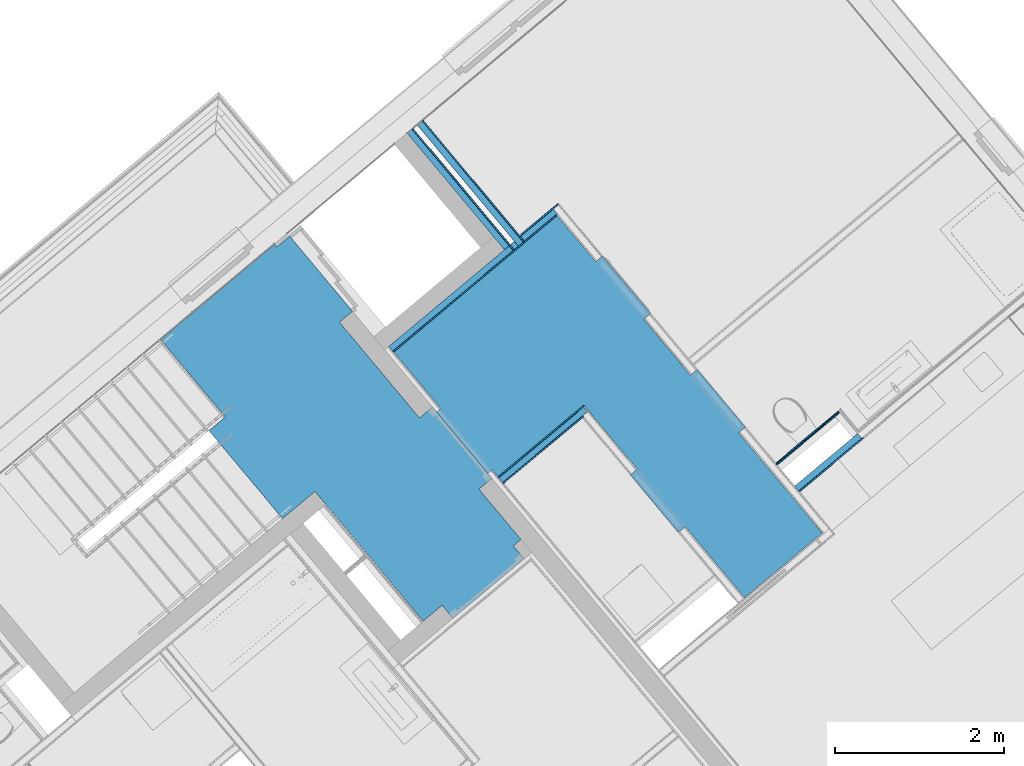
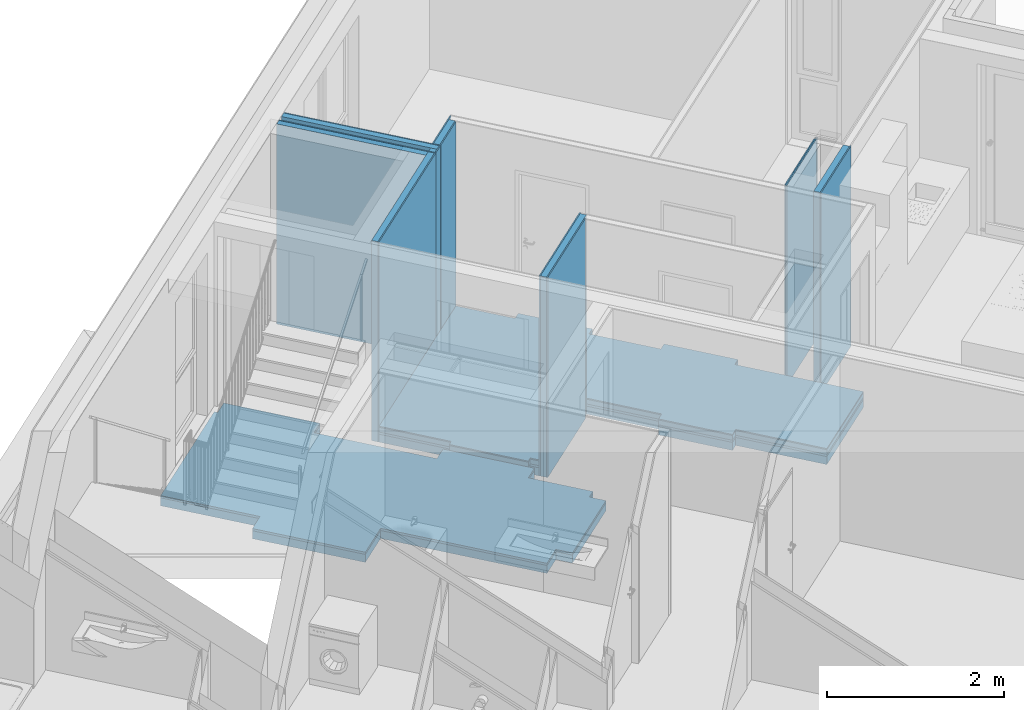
# One storey, part 35 of 53: 24 building element parts, 10 elements without a shape of their own.
"""IFC4 building model written with IfcOpenShell, lengths in metres."""

from ifc_helpers import new_model, entity, si_unit, converted_unit, derived_unit, direction, frame, origin_with_axes, place, context, subcontext, project, spatial, polygons, material, type_object, element, aggregate, save


model = new_model("IFC4")

# Units and contexts
model_context = context("Model", 3, precision=1e-05, world=origin_with_axes(), true_north=direction((0.0, 1.0)))
body_context = subcontext(model_context, "Body", "Model", "MODEL_VIEW")
ifc_project = project(units=[si_unit("LENGTHUNIT", "METRE"), si_unit("AREAUNIT", "SQUARE_METRE"), si_unit("VOLUMEUNIT", "CUBIC_METRE"), converted_unit("PLANEANGLEUNIT", "DEGREE", entity("IfcPlaneAngleMeasure", 0.0174532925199), si_unit("PLANEANGLEUNIT", "RADIAN"), dimensions=[0, 0, 0, 0, 0, 0, 0]), converted_unit("TIMEUNIT", "Year", entity("IfcTimeMeasure", 31556926.0), si_unit("TIMEUNIT", "SECOND"), dimensions=[0, 0, 1, 0, 0, 0, 0]), si_unit("MASSUNIT", "GRAM", prefix="KILO"), si_unit("THERMODYNAMICTEMPERATUREUNIT", "DEGREE_CELSIUS"), si_unit("LUMINOUSINTENSITYUNIT", "LUMEN"), si_unit("ENERGYUNIT", "JOULE", prefix="MEGA"), derived_unit("THERMALCONDUCTANCEUNIT", [(si_unit("POWERUNIT", "WATT"), 1), (si_unit("LENGTHUNIT", "METRE"), -1), (si_unit("THERMODYNAMICTEMPERATUREUNIT", "KELVIN"), -1)]), derived_unit("SPECIFICHEATCAPACITYUNIT", [(si_unit("ENERGYUNIT", "JOULE"), 1), (si_unit("MASSUNIT", "GRAM", prefix="KILO"), -1), (si_unit("THERMODYNAMICTEMPERATUREUNIT", "KELVIN"), -1)]), derived_unit("MASSDENSITYUNIT", [(si_unit("MASSUNIT", "GRAM", prefix="KILO"), 1), (si_unit("VOLUMEUNIT", "CUBIC_METRE"), -1)])], contexts=[model_context])

# Site, building, storey
site_placement = place(None, frame((-0.00153261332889, -0.00661245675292, 0.0), z_axis=(0.0, 0.0, 1.0), x_axis=(1.0, 0.0, 0.0)))
site = spatial("IfcSite", under=ifc_project, at=site_placement, Name="Gelände", CompositionType="ELEMENT")
building_placement = place(site_placement, origin_with_axes())
building = spatial("IfcBuilding", under=site, at=building_placement, Name="Gebäude", CompositionType="ELEMENT")
storey_placement = place(building_placement, frame((0.0, 0.0, 2.74), z_axis=(0.0, 0.0, 1.0), x_axis=(1.0, 0.0, 0.0)))
storey = spatial("IfcBuildingStorey", under=building, at=storey_placement, Name="OG1", CompositionType="ELEMENT", Elevation=2.74)

# Wall, building element parts
wall_type_1 = type_object("IfcWallType", Name="IW LB 01 Leichtbautrennwand einfach 10,5 cm 105", PredefinedType="NOTDEFINED")
wall_1_placement = place(storey_placement, frame((3.02017821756, 25.9291230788, 0.0), z_axis=(0.0, 0.0, 1.0), x_axis=(0.767365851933, 0.641209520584, 0.0)))
wall_1 = element("IfcWall", 1, at=wall_1_placement, inside=storey, type_object=wall_type_1, Name="Wand-012", PredefinedType="NOTDEFINED")
ifc_material_1 = material(Name="Gipskarton")
building_element_part_1_placement = place(wall_1_placement, origin_with_axes())
building_element_part_1 = element("IfcBuildingElementPart", 2, at=building_element_part_1_placement, material=ifc_material_1, Name="Gipskarton", PredefinedType="NOTDEFINED", context=body_context, shape_type="Tessellation", body=[
    polygons([(0.673687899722, 0.0, 2.76), (0.0900000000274, 0.0, 2.76), (0.0900000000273, -0.015, 2.76), (0.673687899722, -0.015, 2.76), (0.673687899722, 0.0, 0.0), (0.0900000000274, 0.0, 0.0), (0.0900000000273, -0.015, 0.0), (0.673687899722, -0.015, 0.0)], [[[1, 2, 3, 4]], [[5, 6, 2, 1]], [[3, 2, 6, 7]], [[4, 3, 7, 8]], [[4, 8, 5, 1]], [[8, 7, 6, 5]]], closed=True),
])
ifc_material_2 = material(Name="Mineralwolle weich")
building_element_part_2_placement = place(wall_1_placement, origin_with_axes())
building_element_part_2 = element("IfcBuildingElementPart", 3, at=building_element_part_2_placement, material=ifc_material_2, Name="Mineralwolle weich", PredefinedType="NOTDEFINED", context=body_context, shape_type="Tessellation", body=[
    polygons([(0.598687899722, -0.015, 2.76), (0.0900000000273, -0.015, 2.76), (0.090000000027, -0.09, 2.76), (0.598687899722, -0.09, 2.76), (0.598687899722, -0.015, 0.0), (0.0900000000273, -0.015, 0.0), (0.090000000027, -0.09, 0.0), (0.598687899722, -0.09, 0.0)], [[[1, 2, 3, 4]], [[5, 6, 2, 1]], [[3, 2, 6, 7]], [[4, 3, 7, 8]], [[4, 8, 5, 1]], [[8, 7, 6, 5]]], closed=True),
])
building_element_part_3_placement = place(wall_1_placement, origin_with_axes())
building_element_part_3 = element("IfcBuildingElementPart", 4, at=building_element_part_3_placement, material=ifc_material_1, Name="Gipskarton", PredefinedType="NOTDEFINED", context=body_context, shape_type="Tessellation", body=[
    polygons([(0.583687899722, -0.09, 2.76), (0.090000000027, -0.09, 2.76), (0.0900000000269, -0.105, 2.76), (0.583687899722, -0.105, 2.76), (0.583687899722, -0.09, 0.0), (0.090000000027, -0.09, 0.0), (0.0900000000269, -0.105, 0.0), (0.583687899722, -0.105, 0.0)], [[[1, 2, 3, 4]], [[5, 6, 2, 1]], [[3, 2, 6, 7]], [[4, 3, 7, 8]], [[4, 8, 5, 1]], [[8, 7, 6, 5]]], closed=True),
])
aggregate(wall_1, [building_element_part_1, building_element_part_2, building_element_part_3])

wall_2_placement = place(storey_placement, frame((2.84969161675, 23.0041117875, 0.0), z_axis=(0.0, 0.0, 1.0), x_axis=(0.767365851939, 0.641209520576, 0.0)))
wall_2 = element("IfcWall", 5, at=wall_2_placement, inside=storey, type_object=wall_type_1, Name="Wand-012", PredefinedType="NOTDEFINED")
building_element_part_4_placement = place(wall_2_placement, origin_with_axes())
building_element_part_4 = element("IfcBuildingElementPart", 6, at=building_element_part_4_placement, material=ifc_material_1, Name="Gipskarton", PredefinedType="NOTDEFINED", context=body_context, shape_type="Tessellation", body=[
    polygons([(0.0650498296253, 0.105, 2.76), (0.0650427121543, 0.09, 2.76), (1.3909877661, 0.09, 2.76), (1.3909877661, 0.105, 2.76), (0.0650427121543, 0.09, 0.0), (0.0650498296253, 0.105, 0.0), (1.3909877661, 0.09, 0.0), (1.3909877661, 0.105, 0.0)], [[[1, 2, 3, 4]], [[5, 2, 1, 6]], [[2, 5, 7, 3]], [[4, 3, 7, 8]], [[6, 1, 4, 8]], [[5, 6, 8, 7]]], closed=True),
])
building_element_part_5_placement = place(wall_2_placement, origin_with_axes())
building_element_part_5 = element("IfcBuildingElementPart", 7, at=building_element_part_5_placement, material=ifc_material_2, Name="Mineralwolle weich", PredefinedType="NOTDEFINED", context=body_context, shape_type="Tessellation", body=[
    polygons([(0.0650427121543, 0.09, 2.76), (0.0650071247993, 0.015, 2.76), (1.3759877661, 0.015, 2.76), (1.3759877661, 0.09, 2.76), (0.0650071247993, 0.015, 0.0), (0.0650427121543, 0.09, 0.0), (1.3759877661, 0.015, 0.0), (1.3759877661, 0.09, 0.0)], [[[1, 2, 3, 4]], [[5, 2, 1, 6]], [[2, 5, 7, 3]], [[4, 3, 7, 8]], [[6, 1, 4, 8]], [[5, 6, 8, 7]]], closed=True),
])
building_element_part_6_placement = place(wall_2_placement, origin_with_axes())
building_element_part_6 = element("IfcBuildingElementPart", 8, at=building_element_part_6_placement, material=ifc_material_1, Name="Gipskarton", PredefinedType="NOTDEFINED", context=body_context, shape_type="Tessellation", body=[
    polygons([(0.0650071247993, 0.015, 2.76), (0.0650000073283, 0.0, 2.76), (1.3009877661, 0.0, 2.76), (1.3009877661, 0.015, 2.76), (0.0650000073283, 0.0, 0.0), (0.0650071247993, 0.015, 0.0), (1.3009877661, 0.0, 0.0), (1.3009877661, 0.015, 0.0)], [[[1, 2, 3, 4]], [[5, 2, 1, 6]], [[2, 5, 7, 3]], [[4, 3, 7, 8]], [[6, 1, 4, 8]], [[5, 6, 8, 7]]], closed=True),
])
aggregate(wall_2, [building_element_part_4, building_element_part_5, building_element_part_6])

wall_type_2 = type_object("IfcWallType", Name="LB 9,0 cm einfache Vorsatzschale  90", PredefinedType="NOTDEFINED")
wall_3_placement = place(storey_placement, frame((2.91105147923, 25.8183705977, 0.0), z_axis=(0.0, 0.0, 1.0), x_axis=(-0.641215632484, 0.767360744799, 0.0)))
wall_3 = element("IfcWall", 9, at=wall_3_placement, inside=storey, type_object=wall_type_2, Name="Wand-006", PredefinedType="NOTDEFINED")
building_element_part_7_placement = place(wall_3_placement, origin_with_axes())
building_element_part_7 = element("IfcBuildingElementPart", 10, at=building_element_part_7_placement, material=ifc_material_2, Name="Mineralwolle weich", PredefinedType="NOTDEFINED", context=body_context, shape_type="Tessellation", body=[
    polygons([(1.79614424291, 0.0, 2.76), (0.0, 0.0, 2.76), (6.98080551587e-07, -0.075, 2.76), (1.79614364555, -0.075, 2.76), (1.79614424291, 0.0, 0.0), (0.0, 0.0, 0.0), (6.98080551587e-07, -0.075, 0.0), (1.79614364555, -0.075, 0.0)], [[[1, 2, 3, 4]], [[5, 6, 2, 1]], [[3, 2, 6, 7]], [[4, 3, 7, 8]], [[4, 8, 5, 1]], [[8, 7, 6, 5]]], closed=True),
])
building_element_part_8_placement = place(wall_3_placement, origin_with_axes())
building_element_part_8 = element("IfcBuildingElementPart", 11, at=building_element_part_8_placement, material=ifc_material_1, Name="Gipskarton", PredefinedType="NOTDEFINED", context=body_context, shape_type="Tessellation", body=[
    polygons([(1.79614364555, -0.075, 2.76), (-0.0749993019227, -0.075, 2.76), (-0.0749991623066, -0.09, 2.76), (1.79614352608, -0.09, 2.76), (1.79614364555, -0.075, 0.0), (-0.0749993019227, -0.075, 0.0), (-0.0749991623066, -0.09, 0.0), (1.79614352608, -0.09, 0.0)], [[[1, 2, 3, 4]], [[5, 6, 2, 1]], [[3, 2, 6, 7]], [[4, 3, 7, 8]], [[4, 8, 5, 1]], [[8, 7, 6, 5]]], closed=True),
])
aggregate(wall_3, [building_element_part_7, building_element_part_8])

wall_4_placement = place(storey_placement, frame((1.49097783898, 24.6317179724, 0.0), z_axis=(0.0, 0.0, 1.0), x_axis=(0.767354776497, 0.641222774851, 0.0)))
wall_4 = element("IfcWall", 12, at=wall_4_placement, inside=storey, type_object=wall_type_2, Name="Wand-006", PredefinedType="NOTDEFINED")
building_element_part_9_placement = place(wall_4_placement, origin_with_axes())
building_element_part_9 = element("IfcBuildingElementPart", 13, at=building_element_part_9_placement, material=ifc_material_2, Name="Mineralwolle weich", PredefinedType="NOTDEFINED", context=body_context, shape_type="Tessellation", body=[
    polygons([(1.92560898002, 0.0, 2.76), (0.0650000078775, 0.0, 2.76), (0.0649631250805, -0.075, 2.76), (1.92560828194, -0.075, 2.76), (1.92560898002, 0.0, 0.0), (0.0650000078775, 0.0, 0.0), (0.0649631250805, -0.075, 0.0), (1.92560828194, -0.075, 0.0)], [[[1, 2, 3, 4]], [[5, 6, 2, 1]], [[6, 7, 3, 2]], [[4, 3, 7, 8]], [[5, 1, 4, 8]], [[8, 7, 6, 5]]], closed=True),
])
building_element_part_10_placement = place(wall_4_placement, origin_with_axes())
building_element_part_10 = element("IfcBuildingElementPart", 14, at=building_element_part_10_placement, material=ifc_material_1, Name="Gipskarton", PredefinedType="NOTDEFINED", context=body_context, shape_type="Tessellation", body=[
    polygons([(0.0649631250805, -0.075, 2.76), (0.0649557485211, -0.09, 2.76), (1.94060814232, -0.09, 2.76), (1.94060828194, -0.075, 2.76), (0.0649557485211, -0.09, 0.0), (0.0649631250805, -0.075, 0.0), (1.94060814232, -0.09, 0.0), (1.94060828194, -0.075, 0.0)], [[[1, 2, 3, 4]], [[5, 2, 1, 6]], [[2, 5, 7, 3]], [[4, 3, 7, 8]], [[6, 1, 4, 8]], [[5, 6, 8, 7]]], closed=True),
])
aggregate(wall_4, [building_element_part_9, building_element_part_10])

wall_5_placement = place(storey_placement, frame((2.98011276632, 25.8760801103, 0.0), z_axis=(0.0, 0.0, 1.0), x_axis=(0.767354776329, 0.641222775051, 0.0)))
wall_5 = element("IfcWall", 15, at=wall_5_placement, inside=storey, type_object=wall_type_2, Name="Wand-006", PredefinedType="NOTDEFINED")
building_element_part_11_placement = place(wall_5_placement, origin_with_axes())
building_element_part_11 = element("IfcBuildingElementPart", 16, at=building_element_part_11_placement, material=ifc_material_2, Name="Mineralwolle weich", PredefinedType="NOTDEFINED", context=body_context, shape_type="Tessellation", body=[
    polygons([(0.0647565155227, 0.0, 2.76), (0.0, 0.0, 2.76), (0.0, -0.075, 2.76), (0.0647552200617, -0.075, 2.76), (0.0647565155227, 0.0, 0.0), (0.0, 0.0, 0.0), (0.0, -0.075, 0.0), (0.0647552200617, -0.075, 0.0)], [[[1, 2, 3, 4]], [[5, 6, 2, 1]], [[3, 2, 6, 7]], [[4, 3, 7, 8]], [[4, 8, 5, 1]], [[8, 7, 6, 5]]], closed=True),
])
building_element_part_12_placement = place(wall_5_placement, origin_with_axes())
building_element_part_12 = element("IfcBuildingElementPart", 17, at=building_element_part_12_placement, material=ifc_material_1, Name="Gipskarton", PredefinedType="NOTDEFINED", context=body_context, shape_type="Tessellation", body=[
    polygons([(0.139755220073, -0.075, 2.76), (0.0, -0.075, 2.76), (0.0, -0.09, 2.76), (0.139754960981, -0.09, 2.76), (0.139755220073, -0.075, 0.0), (0.0, -0.075, 0.0), (0.0, -0.09, 0.0), (0.139754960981, -0.09, 0.0)], [[[1, 2, 3, 4]], [[5, 6, 2, 1]], [[3, 2, 6, 7]], [[4, 3, 7, 8]], [[4, 8, 5, 1]], [[8, 7, 6, 5]]], closed=True),
])
aggregate(wall_5, [building_element_part_11, building_element_part_12])

wall_6_placement = place(storey_placement, frame((3.08751284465, 25.8485405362, 0.0), z_axis=(0.0, 0.0, 1.0), x_axis=(-0.64120952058, 0.767365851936, 0.0)))
wall_6 = element("IfcWall", 18, at=wall_6_placement, inside=storey, type_object=wall_type_2, Name="Wand-006", PredefinedType="NOTDEFINED")
building_element_part_13_placement = place(wall_6_placement, origin_with_axes())
building_element_part_13 = element("IfcBuildingElementPart", 19, at=building_element_part_13_placement, material=ifc_material_2, Name="Mineralwolle weich", PredefinedType="NOTDEFINED", context=body_context, shape_type="Tessellation", body=[
    polygons([(1.8861415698, -0.075, 2.76), (1.8861415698, 0.0, 2.76), (0.0149999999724, 0.0, 2.76), (0.0150012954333, -0.075, 2.76), (1.8861415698, -0.075, 0.0), (1.8861415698, 0.0, 0.0), (0.0149999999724, 0.0, 0.0), (0.0150012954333, -0.075, 0.0)], [[[1, 2, 3, 4]], [[2, 1, 5, 6]], [[2, 6, 7, 3]], [[8, 4, 3, 7]], [[5, 1, 4, 8]], [[6, 5, 8, 7]]], closed=True),
])
building_element_part_14_placement = place(wall_6_placement, origin_with_axes())
building_element_part_14 = element("IfcBuildingElementPart", 20, at=building_element_part_14_placement, material=ifc_material_1, Name="Gipskarton", PredefinedType="NOTDEFINED", context=body_context, shape_type="Tessellation", body=[
    polygons([(1.8861415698, -0.075, 2.76), (0.0, -0.075, 2.76), (0.0, -0.09, 2.76), (1.8861415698, -0.09, 2.76), (1.8861415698, -0.075, 0.0), (0.0, -0.075, 0.0), (0.0, -0.09, 0.0), (1.8861415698, -0.09, 0.0)], [[[1, 2, 3, 4]], [[5, 6, 2, 1]], [[3, 2, 6, 7]], [[4, 3, 7, 8]], [[4, 8, 5, 1]], [[8, 7, 6, 5]]], closed=True),
])
aggregate(wall_6, [building_element_part_13, building_element_part_14])

wall_7_placement = place(storey_placement, frame((6.35108165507, 23.0169179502, 0.0), z_axis=(0.0, 0.0, 1.0), x_axis=(0.767365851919, 0.641209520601, 0.0)))
wall_7 = element("IfcWall", 21, at=wall_7_placement, inside=storey, type_object=wall_type_2, Name="Wand-006", PredefinedType="NOTDEFINED")
building_element_part_15_placement = place(wall_7_placement, origin_with_axes())
building_element_part_15 = element("IfcBuildingElementPart", 22, at=building_element_part_15_placement, material=ifc_material_2, Name="Mineralwolle weich", PredefinedType="NOTDEFINED", context=body_context, shape_type="Tessellation", body=[
    polygons([(0.971380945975, 0.0, 2.76), (0.0, 0.0, 2.76), (0.0, -0.075, 2.76), (0.971201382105, -0.075, 2.76), (0.971380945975, 0.0, 0.0), (0.0, 0.0, 0.0), (0.0, -0.075, 0.0), (0.971201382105, -0.075, 0.0)], [[[1, 2, 3, 4]], [[5, 6, 2, 1]], [[3, 2, 6, 7]], [[4, 3, 7, 8]], [[4, 8, 5, 1]], [[8, 7, 6, 5]]], closed=True),
])
building_element_part_16_placement = place(wall_7_placement, origin_with_axes())
building_element_part_16 = element("IfcBuildingElementPart", 23, at=building_element_part_16_placement, material=ifc_material_1, Name="Gipskarton", PredefinedType="NOTDEFINED", context=body_context, shape_type="Tessellation", body=[
    polygons([(0.986201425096, -0.075, 2.76), (0.0, -0.075, 2.76), (0.0, -0.09, 2.76), (0.986165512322, -0.09, 2.76), (0.986201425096, -0.075, 0.0), (0.0, -0.075, 0.0), (0.0, -0.09, 0.0), (0.986165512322, -0.09, 0.0)], [[[1, 2, 3, 4]], [[5, 6, 2, 1]], [[3, 2, 6, 7]], [[4, 3, 7, 8]], [[4, 8, 5, 1]], [[8, 7, 6, 5]]], closed=True),
])
aggregate(wall_7, [building_element_part_15, building_element_part_16])

wall_type_3 = type_object("IfcWallType", Name="LB 10,5 cm doppelte Vorsatzschale Bad 105", PredefinedType="NOTDEFINED")
wall_8_placement = place(storey_placement, frame((6.19191495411, 23.207400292, 0.0), z_axis=(0.0, 0.0, 1.0), x_axis=(0.767365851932, 0.641209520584, 0.0)))
wall_8 = element("IfcWall", 24, at=wall_8_placement, inside=storey, type_object=wall_type_3, Name="Wand-004", PredefinedType="NOTDEFINED")
building_element_part_17_placement = place(wall_8_placement, origin_with_axes())
building_element_part_17 = element("IfcBuildingElementPart", 25, at=building_element_part_17_placement, material=ifc_material_1, Name="Gipskarton", PredefinedType="NOTDEFINED", context=body_context, shape_type="Tessellation", body=[
    polygons([(1.00222642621, 0.10487431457, 0.0), (1.00222642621, 0.09, 0.0), (1.00219081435, 0.09, 0.0), (1.00222642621, 0.10487431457, 2.76), (1.00222642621, 0.09, 2.76), (1.00219081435, 0.09, 2.76)], [[[1, 2, 3]], [[4, 5, 2, 1]], [[2, 5, 6, 3]], [[1, 3, 6, 4]], [[5, 4, 6]]], closed=True),
    polygons([(0.972190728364, 0.09, 0.0), (0.0, 0.09, 0.0), (0.0, 0.105, 0.0), (0.972226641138, 0.105, 0.0), (0.972190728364, 0.09, 2.76), (0.0, 0.09, 2.76), (0.0, 0.105, 2.76), (0.972226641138, 0.105, 2.76)], [[[1, 2, 3, 4]], [[5, 6, 2, 1]], [[3, 2, 6, 7]], [[4, 3, 7, 8]], [[4, 8, 5, 1]], [[8, 7, 6, 5]]], closed=True),
])
building_element_part_18_placement = place(wall_8_placement, origin_with_axes())
building_element_part_18 = element("IfcBuildingElementPart", 26, at=building_element_part_18_placement, material=ifc_material_1, Name="Gipskarton", PredefinedType="NOTDEFINED", context=body_context, shape_type="Tessellation", body=[
    polygons([(1.00222642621, 0.09, 0.0), (1.00222642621, 0.075, 0.0), (1.00215490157, 0.075, 0.0), (1.00219081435, 0.09, 0.0), (1.00222642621, 0.09, 2.76), (1.00222642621, 0.075, 2.76), (1.00215490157, 0.075, 2.76), (1.00219081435, 0.09, 2.76)], [[[1, 2, 3, 4]], [[1, 5, 6, 2]], [[2, 6, 7, 3]], [[4, 3, 7, 8]], [[5, 1, 4, 8]], [[6, 5, 8, 7]]], closed=True),
    polygons([(0.97215481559, 0.075, 0.0), (0.0, 0.075, 0.0), (0.0, 0.09, 0.0), (0.972190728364, 0.09, 0.0), (0.97215481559, 0.075, 2.76), (0.0, 0.075, 2.76), (0.0, 0.09, 2.76), (0.972190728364, 0.09, 2.76)], [[[1, 2, 3, 4]], [[5, 6, 2, 1]], [[3, 2, 6, 7]], [[4, 3, 7, 8]], [[4, 8, 5, 1]], [[8, 7, 6, 5]]], closed=True),
])
aggregate(wall_8, [building_element_part_17, building_element_part_18])

# Covering, building element parts
covering_type = type_object("IfcCoveringType", Name="DE 01 Decke Wohnung/Wohnung Fließen 220", PredefinedType="NOTDEFINED")
covering_1_placement = place(storey_placement, frame((3.53540854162, 26.2228144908, 0.22), z_axis=(0.0, 0.0, 1.0), x_axis=(1.0, 0.0, 0.0)))
covering_1 = element("IfcCovering", 27, at=covering_1_placement, inside=storey, type_object=covering_type, Name="Decke-001", PredefinedType="NOTDEFINED")
ifc_material_3 = material(Name="Fliesen")
building_element_part_19_placement = place(covering_1_placement, origin_with_axes())
building_element_part_19 = element("IfcBuildingElementPart", 28, at=building_element_part_19_placement, material=ifc_material_3, Name="Fliesen", PredefinedType="NOTDEFINED", context=body_context, shape_type="Tessellation", body=[
    polygons([(0.0, 0.0, -0.015), (-1.93687654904, -1.61850734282, -0.015), (-1.93687654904, -1.61850734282, 0.0), (0.0, 0.0, 0.0), (0.456545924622, -0.546370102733, -0.015), (0.53711933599, -0.479043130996, -0.015), (1.10779579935, -1.16199873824, -0.015), (1.02722238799, -1.22932570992, -0.015), (1.58063062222, -1.89161567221, -0.015), (1.66120403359, -1.8242886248, -0.015), (2.23188049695, -2.50724423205, -0.015), (2.15130708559, -2.57457127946, -0.015), (3.1432594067, -3.76168765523, -0.015), (2.22264850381, -4.52996639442, -0.015), (1.5196247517, -3.68862254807, -0.015), (1.43905209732, -3.75594898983, -0.015), (0.86837563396, -3.07299338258, -0.015), (0.948949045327, -3.00566633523, -0.015), (0.314352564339, -2.24621466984, -0.015), (-0.703126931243, -3.09641874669, -0.015), (-0.771194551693, -3.01488031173, -0.015), (-0.821093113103, -3.05653529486, -0.015), (-1.4298961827, -2.32724879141, -0.015), (-1.37999762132, -2.28559380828, -0.015), (-1.37999762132, -2.28559380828, 0.0), (0.456545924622, -0.546370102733, 0.0), (-1.4298961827, -2.32724879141, 0.0), (-0.821093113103, -3.05653529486, 0.0), (-0.771194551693, -3.01488031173, 0.0), (-0.703126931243, -3.09641874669, 0.0), (0.314352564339, -2.24621466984, 0.0), (0.948949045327, -3.00566633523, 0.0), (0.86837563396, -3.07299338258, 0.0), (1.43905209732, -3.75594898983, 0.0), (1.5196247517, -3.68862254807, 0.0), (2.22264850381, -4.52996639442, 0.0), (3.1432594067, -3.76168765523, 0.0), (2.15130708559, -2.57457127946, 0.0), (2.23188049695, -2.50724423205, 0.0), (1.66120403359, -1.8242886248, 0.0), (1.58063062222, -1.89161567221, 0.0), (1.02722238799, -1.22932570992, 0.0), (1.10779579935, -1.16199873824, 0.0), (0.53711933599, -0.479043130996, 0.0)], [[[1, 2, 3, 4]], [[2, 1, 5, 6, 7, 8, 9, 10, 11, 12, 13, 14, 15, 16, 17, 18, 19, 20, 21, 22, 23, 24]], [[2, 24, 25, 3]], [[26, 4, 3, 25, 27, 28, 29, 30, 31, 32, 33, 34, 35, 36, 37, 38, 39, 40, 41, 42, 43, 44]], [[5, 1, 4, 26]], [[6, 5, 26, 44]], [[7, 6, 44, 43]], [[8, 7, 43, 42]], [[9, 8, 42, 41]], [[10, 9, 41, 40]], [[11, 10, 40, 39]], [[12, 11, 39, 38]], [[13, 12, 38, 37]], [[14, 13, 37, 36]], [[15, 14, 36, 35]], [[16, 15, 35, 34]], [[17, 16, 34, 33]], [[18, 17, 33, 32]], [[19, 18, 32, 31]], [[20, 19, 31, 30]], [[21, 20, 30, 29]], [[22, 21, 29, 28]], [[23, 22, 28, 27]], [[24, 23, 27, 25]]], closed=True),
])
ifc_material_4 = material(Name="Estrich")
building_element_part_20_placement = place(covering_1_placement, origin_with_axes())
building_element_part_20 = element("IfcBuildingElementPart", 29, at=building_element_part_20_placement, material=ifc_material_4, Name="Estrich", PredefinedType="NOTDEFINED", context=body_context, shape_type="Tessellation", body=[
    polygons([(0.0, 0.0, -0.08), (-1.93687654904, -1.61850734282, -0.08), (-1.93687654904, -1.61850734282, -0.015), (0.0, 0.0, -0.015), (0.456545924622, -0.546370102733, -0.08), (0.53711933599, -0.479043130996, -0.08), (1.10779579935, -1.16199873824, -0.08), (1.02722238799, -1.22932570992, -0.08), (1.58063062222, -1.89161567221, -0.08), (1.66120403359, -1.8242886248, -0.08), (2.23188049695, -2.50724423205, -0.08), (2.15130708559, -2.57457127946, -0.08), (3.1432594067, -3.76168765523, -0.08), (2.22264850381, -4.52996639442, -0.08), (1.5196247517, -3.68862254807, -0.08), (1.43905209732, -3.75594898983, -0.08), (0.86837563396, -3.07299338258, -0.08), (0.948949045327, -3.00566633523, -0.08), (0.314352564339, -2.24621466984, -0.08), (-0.703126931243, -3.09641874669, -0.08), (-0.771194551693, -3.01488031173, -0.08), (-0.821093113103, -3.05653529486, -0.08), (-1.4298961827, -2.32724879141, -0.08), (-1.37999762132, -2.28559380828, -0.08), (-1.37999762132, -2.28559380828, -0.015), (0.456545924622, -0.546370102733, -0.015), (-1.4298961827, -2.32724879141, -0.015), (-0.821093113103, -3.05653529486, -0.015), (-0.771194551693, -3.01488031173, -0.015), (-0.703126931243, -3.09641874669, -0.015), (0.314352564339, -2.24621466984, -0.015), (0.948949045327, -3.00566633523, -0.015), (0.86837563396, -3.07299338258, -0.015), (1.43905209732, -3.75594898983, -0.015), (1.5196247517, -3.68862254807, -0.015), (2.22264850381, -4.52996639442, -0.015), (3.1432594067, -3.76168765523, -0.015), (2.15130708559, -2.57457127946, -0.015), (2.23188049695, -2.50724423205, -0.015), (1.66120403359, -1.8242886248, -0.015), (1.58063062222, -1.89161567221, -0.015), (1.02722238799, -1.22932570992, -0.015), (1.10779579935, -1.16199873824, -0.015), (0.53711933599, -0.479043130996, -0.015)], [[[1, 2, 3, 4]], [[2, 1, 5, 6, 7, 8, 9, 10, 11, 12, 13, 14, 15, 16, 17, 18, 19, 20, 21, 22, 23, 24]], [[2, 24, 25, 3]], [[26, 4, 3, 25, 27, 28, 29, 30, 31, 32, 33, 34, 35, 36, 37, 38, 39, 40, 41, 42, 43, 44]], [[5, 1, 4, 26]], [[6, 5, 26, 44]], [[7, 6, 44, 43]], [[8, 7, 43, 42]], [[9, 8, 42, 41]], [[10, 9, 41, 40]], [[11, 10, 40, 39]], [[12, 11, 39, 38]], [[13, 12, 38, 37]], [[14, 13, 37, 36]], [[15, 14, 36, 35]], [[16, 15, 35, 34]], [[17, 16, 34, 33]], [[18, 17, 33, 32]], [[19, 18, 32, 31]], [[20, 19, 31, 30]], [[21, 20, 30, 29]], [[22, 21, 29, 28]], [[23, 22, 28, 27]], [[24, 23, 27, 25]]], closed=True),
])
ifc_material_5 = material(Name="Trittschalldämmung")
building_element_part_21_placement = place(covering_1_placement, origin_with_axes())
building_element_part_21 = element("IfcBuildingElementPart", 30, at=building_element_part_21_placement, material=ifc_material_5, Name="Trittschalldämmung", PredefinedType="NOTDEFINED", context=body_context, shape_type="Tessellation", body=[
    polygons([(0.0, 0.0, -0.11), (-1.93687654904, -1.61850734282, -0.11), (-1.93687654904, -1.61850734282, -0.08), (0.0, 0.0, -0.08), (0.456545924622, -0.546370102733, -0.11), (0.53711933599, -0.479043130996, -0.11), (1.10779579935, -1.16199873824, -0.11), (1.02722238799, -1.22932570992, -0.11), (1.58063062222, -1.89161567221, -0.11), (1.66120403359, -1.8242886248, -0.11), (2.23188049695, -2.50724423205, -0.11), (2.15130708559, -2.57457127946, -0.11), (3.1432594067, -3.76168765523, -0.11), (2.22264850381, -4.52996639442, -0.11), (1.5196247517, -3.68862254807, -0.11), (1.43905209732, -3.75594898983, -0.11), (0.86837563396, -3.07299338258, -0.11), (0.948949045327, -3.00566633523, -0.11), (0.314352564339, -2.24621466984, -0.11), (-0.703126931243, -3.09641874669, -0.11), (-0.771194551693, -3.01488031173, -0.11), (-0.821093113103, -3.05653529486, -0.11), (-1.4298961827, -2.32724879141, -0.11), (-1.37999762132, -2.28559380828, -0.11), (-1.37999762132, -2.28559380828, -0.08), (0.456545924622, -0.546370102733, -0.08), (-1.4298961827, -2.32724879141, -0.08), (-0.821093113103, -3.05653529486, -0.08), (-0.771194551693, -3.01488031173, -0.08), (-0.703126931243, -3.09641874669, -0.08), (0.314352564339, -2.24621466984, -0.08), (0.948949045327, -3.00566633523, -0.08), (0.86837563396, -3.07299338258, -0.08), (1.43905209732, -3.75594898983, -0.08), (1.5196247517, -3.68862254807, -0.08), (2.22264850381, -4.52996639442, -0.08), (3.1432594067, -3.76168765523, -0.08), (2.15130708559, -2.57457127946, -0.08), (2.23188049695, -2.50724423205, -0.08), (1.66120403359, -1.8242886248, -0.08), (1.58063062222, -1.89161567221, -0.08), (1.02722238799, -1.22932570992, -0.08), (1.10779579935, -1.16199873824, -0.08), (0.53711933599, -0.479043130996, -0.08)], [[[1, 2, 3, 4]], [[2, 1, 5, 6, 7, 8, 9, 10, 11, 12, 13, 14, 15, 16, 17, 18, 19, 20, 21, 22, 23, 24]], [[2, 24, 25, 3]], [[26, 4, 3, 25, 27, 28, 29, 30, 31, 32, 33, 34, 35, 36, 37, 38, 39, 40, 41, 42, 43, 44]], [[5, 1, 4, 26]], [[6, 5, 26, 44]], [[7, 6, 44, 43]], [[8, 7, 43, 42]], [[9, 8, 42, 41]], [[10, 9, 41, 40]], [[11, 10, 40, 39]], [[12, 11, 39, 38]], [[13, 12, 38, 37]], [[14, 13, 37, 36]], [[15, 14, 36, 35]], [[16, 15, 35, 34]], [[17, 16, 34, 33]], [[18, 17, 33, 32]], [[19, 18, 32, 31]], [[20, 19, 31, 30]], [[21, 20, 30, 29]], [[22, 21, 29, 28]], [[23, 22, 28, 27]], [[24, 23, 27, 25]]], closed=True),
])
ifc_material_6 = material(Name="Schüttung")
building_element_part_22_placement = place(covering_1_placement, origin_with_axes())
building_element_part_22 = element("IfcBuildingElementPart", 31, at=building_element_part_22_placement, material=ifc_material_6, Name="Schüttung", PredefinedType="NOTDEFINED", context=body_context, shape_type="Tessellation", body=[
    polygons([(0.0, 0.0, -0.11), (0.0, 0.0, -0.22), (-1.93687654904, -1.61850734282, -0.22), (-1.93687654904, -1.61850734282, -0.11), (0.456545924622, -0.546370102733, -0.11), (0.456545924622, -0.546370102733, -0.22), (0.53711933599, -0.479043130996, -0.22), (1.10779579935, -1.16199873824, -0.22), (1.02722238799, -1.22932570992, -0.22), (1.58063062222, -1.89161567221, -0.22), (1.66120403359, -1.8242886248, -0.22), (2.23188049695, -2.50724423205, -0.22), (2.15130708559, -2.57457127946, -0.22), (3.1432594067, -3.76168765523, -0.22), (2.22264850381, -4.52996639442, -0.22), (1.5196247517, -3.68862254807, -0.22), (1.43905209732, -3.75594898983, -0.22), (0.86837563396, -3.07299338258, -0.22), (0.948949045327, -3.00566633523, -0.22), (0.314352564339, -2.24621466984, -0.22), (-0.703126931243, -3.09641874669, -0.22), (-0.771194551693, -3.01488031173, -0.22), (-0.821093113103, -3.05653529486, -0.22), (-1.4298961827, -2.32724879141, -0.22), (-1.37999762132, -2.28559380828, -0.22), (-1.37999762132, -2.28559380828, -0.11), (-1.4298961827, -2.32724879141, -0.11), (-0.821093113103, -3.05653529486, -0.11), (-0.771194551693, -3.01488031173, -0.11), (-0.703126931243, -3.09641874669, -0.11), (0.314352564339, -2.24621466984, -0.11), (0.948949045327, -3.00566633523, -0.11), (0.86837563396, -3.07299338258, -0.11), (1.43905209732, -3.75594898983, -0.11), (1.5196247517, -3.68862254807, -0.11), (2.22264850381, -4.52996639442, -0.11), (3.1432594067, -3.76168765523, -0.11), (2.15130708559, -2.57457127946, -0.11), (2.23188049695, -2.50724423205, -0.11), (1.66120403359, -1.8242886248, -0.11), (1.58063062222, -1.89161567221, -0.11), (1.02722238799, -1.22932570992, -0.11), (1.10779579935, -1.16199873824, -0.11), (0.53711933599, -0.479043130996, -0.11)], [[[1, 2, 3, 4]], [[5, 6, 2, 1]], [[3, 2, 6, 7, 8, 9, 10, 11, 12, 13, 14, 15, 16, 17, 18, 19, 20, 21, 22, 23, 24, 25]], [[4, 3, 25, 26]], [[5, 1, 4, 26, 27, 28, 29, 30, 31, 32, 33, 34, 35, 36, 37, 38, 39, 40, 41, 42, 43, 44]], [[44, 7, 6, 5]], [[43, 8, 7, 44]], [[42, 9, 8, 43]], [[41, 10, 9, 42]], [[40, 11, 10, 41]], [[39, 12, 11, 40]], [[38, 13, 12, 39]], [[37, 14, 13, 38]], [[36, 15, 14, 37]], [[35, 16, 15, 36]], [[34, 17, 16, 35]], [[33, 18, 17, 34]], [[32, 19, 18, 33]], [[31, 20, 19, 32]], [[30, 21, 20, 31]], [[29, 22, 21, 30]], [[28, 23, 22, 29]], [[27, 24, 23, 28]], [[26, 25, 24, 27]]], closed=True),
])
aggregate(covering_1, [building_element_part_19, building_element_part_20, building_element_part_21, building_element_part_22])

covering_2_placement = place(storey_placement, frame((0.186433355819, 25.8823468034, 0.22), z_axis=(0.0, 0.0, 1.0), x_axis=(1.0, 0.0, 0.0)))
covering_2 = element("IfcCovering", 32, at=covering_2_placement, inside=storey, type_object=covering_type, Name="Decke-001", PredefinedType="NOTDEFINED")
building_element_part_23_placement = place(covering_2_placement, origin_with_axes())
building_element_part_23 = element("IfcBuildingElementPart", 33, at=building_element_part_23_placement, material=ifc_material_5, Name="Trittschalldämmung", PredefinedType="NOTDEFINED", context=body_context, shape_type="Tessellation", body=[
    polygons([(0.0938673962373, -3.25162003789, -0.11), (0.286905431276, -3.09031781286, -0.11), (0.478971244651, -2.92982796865, -0.11), (0.478971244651, -2.92982796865, -0.08), (0.286905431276, -3.09031781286, -0.08), (0.0938673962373, -3.25162003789, -0.08), (-0.778128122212, -2.208157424, -0.11), (-0.584981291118, -2.04678108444, -0.11), (-1.35152231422, -1.12932957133, -0.11), (0.0, 0.0, -0.11), (0.0263065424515, -0.0315126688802, -0.11), (0.179840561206, 0.0966564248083, -0.11), (0.923221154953, -0.793840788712, -0.11), (0.769687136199, -0.922009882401, -0.11), (1.71748165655, -2.05737494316, -0.11), (1.87101560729, -1.92920584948, -0.11), (2.57594545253, -2.77364288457, -0.11), (2.42241150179, -2.90181197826, -0.11), (2.92064867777, -3.49865129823, -0.11), (2.82949713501, -3.57474389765, -0.11), (2.9576662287, -3.72827791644, -0.11), (2.11322919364, -4.43320776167, -0.11), (1.98506009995, -4.27967374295, -0.11), (1.76163589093, -4.4661866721, -0.11), (0.607213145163, -3.08330113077, -0.11), (0.607213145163, -3.08330113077, -0.08), (1.76163589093, -4.4661866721, -0.08), (1.98506009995, -4.27967374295, -0.08), (2.11322919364, -4.43320776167, -0.08), (2.9576662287, -3.72827791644, -0.08), (2.82949713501, -3.57474389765, -0.08), (2.92064867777, -3.49865129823, -0.08), (2.42241150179, -2.90181197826, -0.08), (2.57594545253, -2.77364288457, -0.08), (1.87101560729, -1.92920584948, -0.08), (1.71748165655, -2.05737494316, -0.08), (0.769687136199, -0.922009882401, -0.08), (0.923221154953, -0.793840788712, -0.08), (0.179840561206, 0.0966564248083, -0.08), (0.0263065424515, -0.0315126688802, -0.08), (0.0, 0.0, -0.08), (-1.35152231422, -1.12932957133, -0.08), (-0.584981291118, -2.04678108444, -0.08), (-0.778128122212, -2.208157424, -0.08)], [[[1, 2, 3, 4, 5, 6]], [[2, 1, 7, 8, 9, 10, 11, 12, 13, 14, 15, 16, 17, 18, 19, 20, 21, 22, 23, 24, 25, 3]], [[25, 26, 4, 3]], [[6, 5, 4, 26, 27, 28, 29, 30, 31, 32, 33, 34, 35, 36, 37, 38, 39, 40, 41, 42, 43, 44]], [[1, 6, 44, 7]], [[8, 7, 44, 43]], [[42, 9, 8, 43]], [[9, 42, 41, 10]], [[40, 11, 10, 41]], [[11, 40, 39, 12]], [[12, 39, 38, 13]], [[37, 14, 13, 38]], [[37, 36, 15, 14]], [[35, 16, 15, 36]], [[34, 17, 16, 35]], [[18, 17, 34, 33]], [[18, 33, 32, 19]], [[31, 20, 19, 32]], [[20, 31, 30, 21]], [[29, 22, 21, 30]], [[28, 23, 22, 29]], [[27, 24, 23, 28]], [[26, 25, 24, 27]]], closed=True),
])
building_element_part_24_placement = place(covering_2_placement, origin_with_axes())
building_element_part_24 = element("IfcBuildingElementPart", 34, at=building_element_part_24_placement, material=ifc_material_6, Name="Schüttung", PredefinedType="NOTDEFINED", context=body_context, shape_type="Tessellation", body=[
    polygons([(0.0938673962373, -3.25162003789, -0.22), (0.286905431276, -3.09031781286, -0.22), (0.478971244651, -2.92982796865, -0.22), (0.478971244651, -2.92982796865, -0.11), (0.286905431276, -3.09031781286, -0.11), (0.0938673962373, -3.25162003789, -0.11), (-0.778128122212, -2.208157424, -0.22), (-0.584981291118, -2.04678108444, -0.22), (-1.35152231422, -1.12932957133, -0.22), (0.0, 0.0, -0.22), (0.0263065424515, -0.0315126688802, -0.22), (0.179840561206, 0.0966564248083, -0.22), (0.923221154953, -0.793840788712, -0.22), (0.769687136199, -0.922009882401, -0.22), (1.71748165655, -2.05737494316, -0.22), (1.87101560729, -1.92920584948, -0.22), (2.57594545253, -2.77364288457, -0.22), (2.42241150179, -2.90181197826, -0.22), (2.92064867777, -3.49865129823, -0.22), (2.82949713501, -3.57474389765, -0.22), (2.9576662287, -3.72827791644, -0.22), (2.11322919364, -4.43320776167, -0.22), (1.98506009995, -4.27967374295, -0.22), (1.76163589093, -4.4661866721, -0.22), (0.607213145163, -3.08330113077, -0.22), (0.607213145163, -3.08330113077, -0.11), (1.76163589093, -4.4661866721, -0.11), (1.98506009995, -4.27967374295, -0.11), (2.11322919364, -4.43320776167, -0.11), (2.9576662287, -3.72827791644, -0.11), (2.82949713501, -3.57474389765, -0.11), (2.92064867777, -3.49865129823, -0.11), (2.42241150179, -2.90181197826, -0.11), (2.57594545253, -2.77364288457, -0.11), (1.87101560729, -1.92920584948, -0.11), (1.71748165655, -2.05737494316, -0.11), (0.769687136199, -0.922009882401, -0.11), (0.923221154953, -0.793840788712, -0.11), (0.179840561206, 0.0966564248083, -0.11), (0.0263065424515, -0.0315126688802, -0.11), (0.0, 0.0, -0.11), (-1.35152231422, -1.12932957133, -0.11), (-0.584981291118, -2.04678108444, -0.11), (-0.778128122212, -2.208157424, -0.11)], [[[1, 2, 3, 4, 5, 6]], [[2, 1, 7, 8, 9, 10, 11, 12, 13, 14, 15, 16, 17, 18, 19, 20, 21, 22, 23, 24, 25, 3]], [[4, 3, 25, 26]], [[6, 5, 4, 26, 27, 28, 29, 30, 31, 32, 33, 34, 35, 36, 37, 38, 39, 40, 41, 42, 43, 44]], [[1, 6, 44, 7]], [[8, 7, 44, 43]], [[9, 8, 43, 42]], [[10, 9, 42, 41]], [[40, 11, 10, 41]], [[11, 40, 39, 12]], [[12, 39, 38, 13]], [[14, 13, 38, 37]], [[15, 14, 37, 36]], [[15, 36, 35, 16]], [[34, 17, 16, 35]], [[18, 17, 34, 33]], [[18, 33, 32, 19]], [[31, 20, 19, 32]], [[21, 20, 31, 30]], [[29, 22, 21, 30]], [[23, 22, 29, 28]], [[24, 23, 28, 27]], [[25, 24, 27, 26]]], closed=True),
])
aggregate(covering_2, [building_element_part_23, building_element_part_24])

save(model, "model.ifc")
